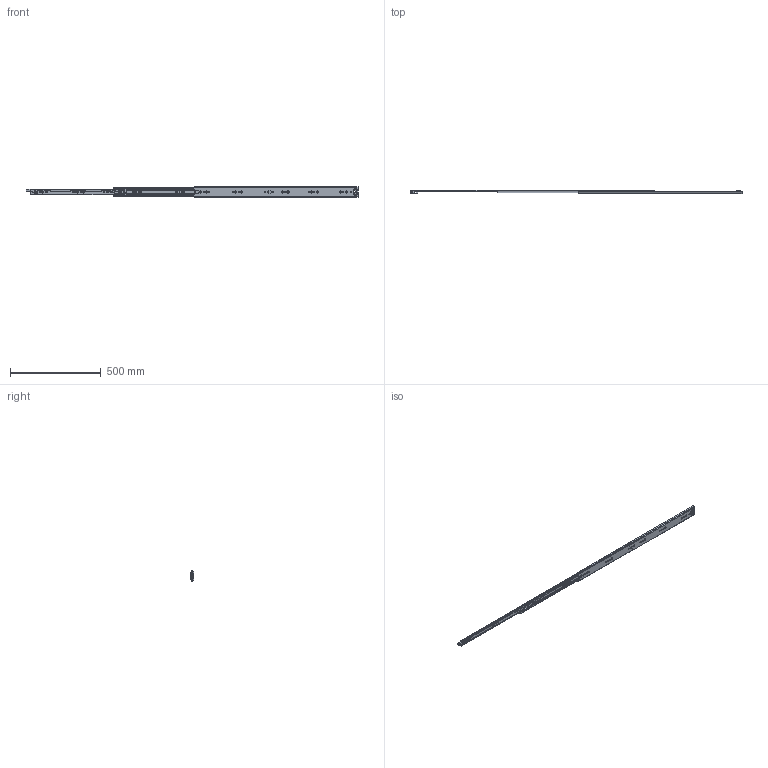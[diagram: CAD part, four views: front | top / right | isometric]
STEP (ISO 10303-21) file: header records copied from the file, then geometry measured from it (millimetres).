
FILE_DESCRIPTION((''),'2;1');
FILE_NAME('KP-57-01ZUZHUANGTU-36YOU_ASM','2023-04-03T',('jishu015'),(''),'PRO/ENGINEER BY PARAMETRIC TECHNOLOGY CORPORATION, 2010280','PRO/ENGINEER BY PARAMETRIC TECHNOLOGY CORPORATION, 2010280','');
FILE_SCHEMA(('CONFIG_CONTROL_DESIGN'));
Products named in the file (21): KP-57-01WEIKE-18_________; 1057WEIJIAO_________; WAIKE________ASM; KP-57-01ZHONGGUI-18_________; ZHONGGUIPEIJIAN-11_______; ZHONGGUISUOKOU-11_______; KP-57-01ZHONGGUI-18__________ASM; 1057XIAOZHUJIA_________; 1057-5-6GANZHU_________; 1057XIAOZHUJIA-14GE__________ASM; KP-57-01NEIGUI-18_________; PJ-57-08_______; DIAOPIAN-11_______; 50XINSUOKOU-1_______; 1053-3SBANJI122_____; JIAO11_____; KP-57-01NEIGUI-18__________ASM; 1053ZHUTIAO-175_____________; 53-5-6GANZHU_____________; 1053ZHUTIAO-175MM________ASM; KP-57-01ZUZHUANGTU-36YOU_ASM
Assembly tree (99 placements, depth 3):
  KP-57-01ZUZHUANGTU-36YOU_ASM
    WAIKE________ASM
      KP-57-01WEIKE-18_________
      1057WEIJIAO_________
    KP-57-01ZHONGGUI-18__________ASM
      KP-57-01ZHONGGUI-18_________
      ZHONGGUIPEIJIAN-11_______
      ZHONGGUISUOKOU-11_______
    1057XIAOZHUJIA-14GE__________ASM
      1057XIAOZHUJIA_________
      1057-5-6GANZHU_________  x64
    KP-57-01NEIGUI-18__________ASM
      KP-57-01NEIGUI-18_________
      PJ-57-08_______
      DIAOPIAN-11_______
      50XINSUOKOU-1_______
      1053-3SBANJI122_____
      JIAO11_____
    1053ZHUTIAO-175MM________ASM  x2
      1053ZHUTIAO-175_____________
      53-5-6GANZHU_____________
Bounding box: 1826.92 x 19 x 57.67 mm (x, y, z)
Volume: 394470.4 mm3; surface area: 430399.1 mm2
Topology: 112 solids, 112 shells, 2774 faces, 8042 edges, 5021 vertices
Faces by surface type: cylinder 1203, plane 1119, sphere 203, bspline 123, cone 84, extrusion 23, torus 19
Entity records: 89389 total; most frequent: CARTESIAN_POINT 21941, ORIENTED_EDGE 14300, DIRECTION 13882, EDGE_CURVE 7150, AXIS2_PLACEMENT_3D 4786, VERTEX_POINT 4625, VECTOR 4310, LINE 4287
